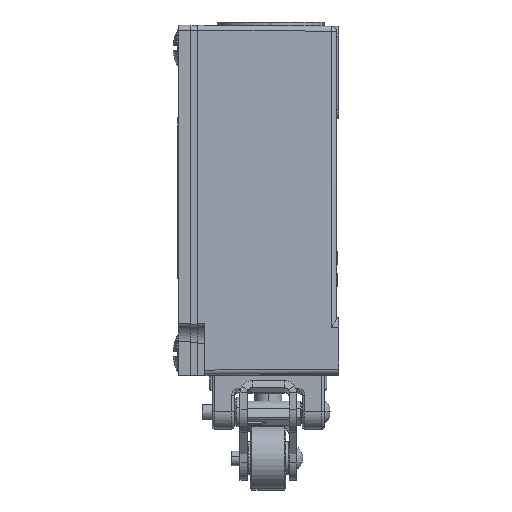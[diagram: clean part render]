
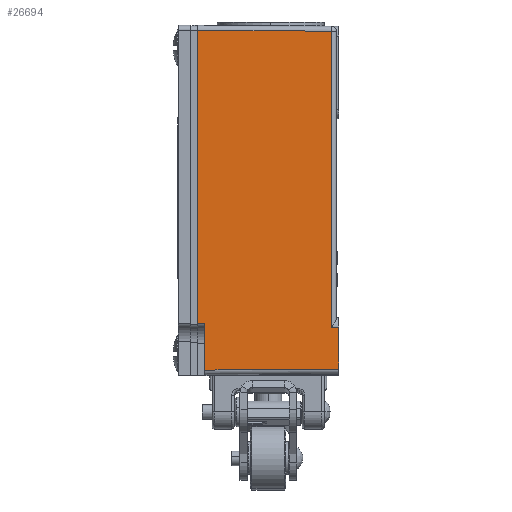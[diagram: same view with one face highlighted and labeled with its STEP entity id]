
A CAD part, left-side view. The second image highlights one B-rep face of the part: STEP entity #26694.
In plain terms, the highlighted planar face has unit normal (-1, -0.007, 0).
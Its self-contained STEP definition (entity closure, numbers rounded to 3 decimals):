
#5014=DIRECTION('',(0.007,-1.,0.007));
#5015=VECTOR('',#5014,27.501);
#5016=CARTESIAN_POINT('',(-17.99,13.,1.21));
#5017=LINE('',#5016,#5015);
#5083=DIRECTION('',(0.,0.,-1.));
#5084=VECTOR('',#5083,8.6);
#5085=CARTESIAN_POINT('',(-17.8,-14.5,10.));
#5086=LINE('',#5085,#5084);
#5090=DIRECTION('',(0.,0.,-1.));
#5091=VECTOR('',#5090,9.49);
#5092=CARTESIAN_POINT('',(-17.99,13.,10.7));
#5093=LINE('',#5092,#5091);
#5097=DIRECTION('',(0.007,-1.,0.));
#5098=VECTOR('',#5097,1.5);
#5099=CARTESIAN_POINT('',(-18.,14.5,10.7));
#5100=LINE('',#5099,#5098);
#5104=DIRECTION('',(0.,0.,-1.));
#5105=VECTOR('',#5104,60.81);
#5106=CARTESIAN_POINT('',(-17.81,-13.007,
70.81));
#5107=LINE('',#5106,#5105);
#5158=DIRECTION('',(-0.007,1.,0.007));
#5159=VECTOR('',#5158,27.508);
#5160=CARTESIAN_POINT('',(-17.81,-13.007,
70.81));
#5161=LINE('',#5160,#5159);
#5165=CARTESIAN_POINT('',(-18.,14.5,71.));
#5236=DIRECTION('',(0.,0.,-1.));
#5237=VECTOR('',#5236,60.3);
#5238=CARTESIAN_POINT('',(-18.,14.5,71.));
#5239=LINE('',#5238,#5237);
#9393=DIRECTION('',(-0.007,1.,0.));
#9394=VECTOR('',#9393,1.493);
#9395=CARTESIAN_POINT('',(-17.8,-14.5,10.));
#9396=LINE('',#9395,#9394);
#9426=CARTESIAN_POINT('',(-17.8,-14.5,10.));
#18442=VERTEX_POINT('',#9426);
#18451=CARTESIAN_POINT('',(-18.,14.5,10.7));
#18452=CARTESIAN_POINT('',(-17.99,13.,10.7));
#18453=VERTEX_POINT('',#18451);
#18454=VERTEX_POINT('',#18452);
#18507=VERTEX_POINT('',#5165);
#18517=CARTESIAN_POINT('',(-17.8,-14.5,1.4));
#18518=VERTEX_POINT('',#18517);
#18519=CARTESIAN_POINT('',(-17.99,13.,1.21));
#18520=VERTEX_POINT('',#18519);
#18537=CARTESIAN_POINT('',(-17.81,-13.007,
70.81));
#18538=CARTESIAN_POINT('',(-17.81,-13.007,10.));
#18539=VERTEX_POINT('',#18537);
#18540=VERTEX_POINT('',#18538);
#26674=CARTESIAN_POINT('',(-17.8,-14.5,0.));
#26675=DIRECTION('',(-1.,-0.007,0.));
#26676=DIRECTION('',(-0.007,1.,0.));
#26677=AXIS2_PLACEMENT_3D('',#26674,#26675,#26676);
#26678=PLANE('',#26677);
#26680=ORIENTED_EDGE('',*,*,#26679,.T.);
#26682=ORIENTED_EDGE('',*,*,#26681,.F.);
#26683=ORIENTED_EDGE('',*,*,#26534,.T.);
#26684=ORIENTED_EDGE('',*,*,#26623,.F.);
#26685=ORIENTED_EDGE('',*,*,#26642,.F.);
#26687=ORIENTED_EDGE('',*,*,#26686,.F.);
#26689=ORIENTED_EDGE('',*,*,#26688,.F.);
#26691=ORIENTED_EDGE('',*,*,#26690,.F.);
#26692=EDGE_LOOP('',(#26680,#26682,#26683,#26684,#26685,#26687,#26689,#26691));
#26693=FACE_OUTER_BOUND('',#26692,.F.);
#26534=EDGE_CURVE('',#18442,#18518,#5086,.T.);
#26623=EDGE_CURVE('',#18520,#18518,#5017,.T.);
#26642=EDGE_CURVE('',#18454,#18520,#5093,.T.);
#26679=EDGE_CURVE('',#18539,#18540,#5107,.T.);
#26681=EDGE_CURVE('',#18442,#18540,#9396,.T.);
#26686=EDGE_CURVE('',#18453,#18454,#5100,.T.);
#26688=EDGE_CURVE('',#18507,#18453,#5239,.T.);
#26690=EDGE_CURVE('',#18539,#18507,#5161,.T.);
#26694=ADVANCED_FACE('',(#26693),#26678,.T.);
